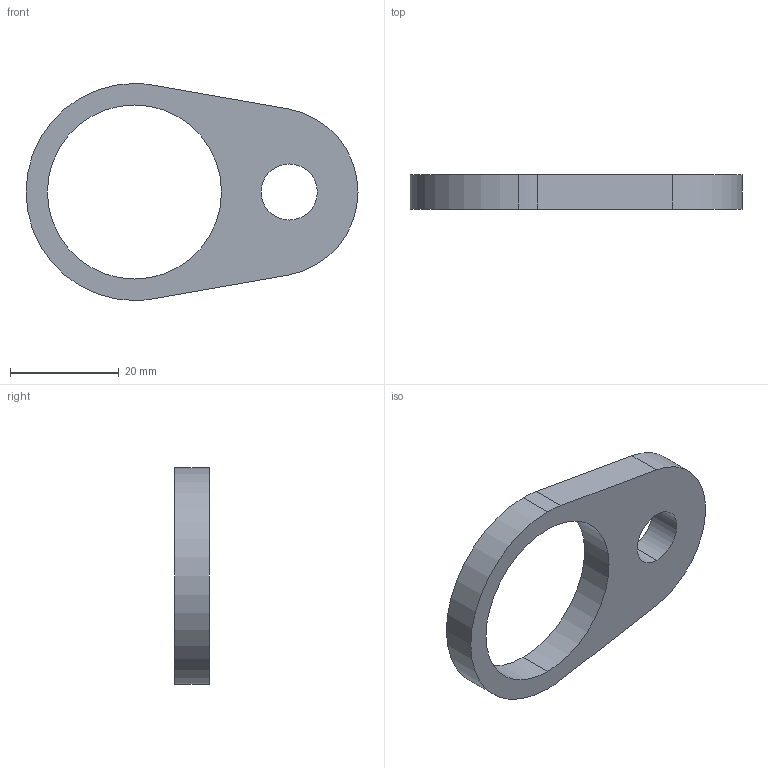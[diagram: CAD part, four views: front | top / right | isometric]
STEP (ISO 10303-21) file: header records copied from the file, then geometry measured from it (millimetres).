
FILE_DESCRIPTION (( 'STEP AP214' ), '1' );
FILE_NAME ('GasSpringClamp-A-32.stp', '2011-04-26T18:57:38', ( '' ), ( '' ), 'SwSTEP 2.0', 'SolidWorks 2010', '' );
FILE_SCHEMA (( 'AUTOMOTIVE_DESIGN' ));
Length unit declared in the file: inch
Products named in the file (1): GasSpringClamp-A-32
Bounding box: 61.03 x 6.35 x 39.88 mm (x, y, z)
Volume: 6569.2 mm3; surface area: 3950 mm2
Topology: 1 solids, 1 shells, 12 faces, 30 edges, 20 vertices
Faces by surface type: cylinder 8, plane 4
Entity records: 418 total; most frequent: DIRECTION 72, CARTESIAN_POINT 63, ORIENTED_EDGE 60, EDGE_CURVE 30, AXIS2_PLACEMENT_3D 29, VERTEX_POINT 20, EDGE_LOOP 16, CIRCLE 16
